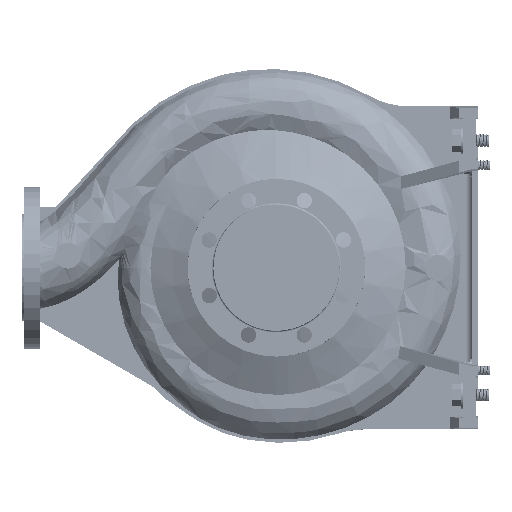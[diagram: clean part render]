
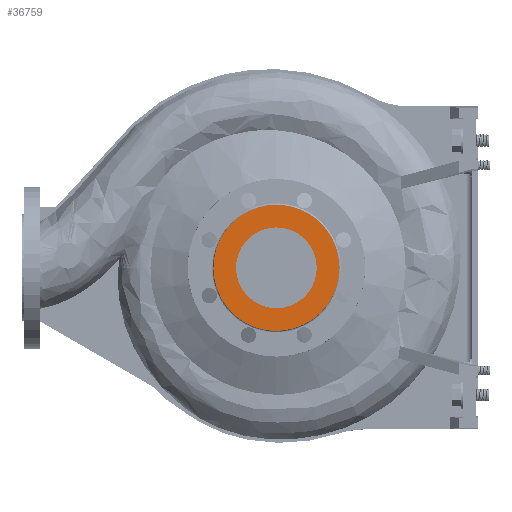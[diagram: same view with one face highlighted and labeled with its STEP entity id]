
A CAD part, left-side view. The second image highlights one B-rep face of the part: STEP entity #36759.
In plain terms, the highlighted planar face has unit normal (-1, 0, 0).
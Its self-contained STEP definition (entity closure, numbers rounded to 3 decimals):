
#1452 = CARTESIAN_POINT ( 'NONE',  ( -125., -78.936, -78.936 ) ) ;
#2963 = CARTESIAN_POINT ( 'NONE',  ( -125., -50., 0. ) ) ;
#3336 = AXIS2_PLACEMENT_3D ( 'NONE', #1452, #97648, #150085 ) ;
#9535 =( BOUNDED_CURVE ( )  B_SPLINE_CURVE ( 3, ( #228836, #153355, #208191, #135073 ),
 .UNSPECIFIED., .F., .F. ) 
 B_SPLINE_CURVE_WITH_KNOTS ( ( 4, 4 ),
 ( 0., 0.245 ),
 .UNSPECIFIED. ) 
 CURVE ( )  GEOMETRIC_REPRESENTATION_ITEM ( )  RATIONAL_B_SPLINE_CURVE ( ( 0.957, 0.319, 0.319, 0.957 ) ) 
 REPRESENTATION_ITEM ( '' )  );
#10399 = EDGE_LOOP ( 'NONE', ( #220333, #98650 ) ) ;
#22850 = CARTESIAN_POINT ( 'NONE',  ( -125., 0., 0. ) ) ;
#26476 = CARTESIAN_POINT ( 'NONE',  ( -125., 0., 0. ) ) ;
#35326 = EDGE_LOOP ( 'NONE', ( #220045, #178744 ) ) ;
#36759 = ADVANCED_FACE ( 'NONE', ( #185445, #224397 ), #95274, .T. ) ;
#42776 = CARTESIAN_POINT ( 'NONE',  ( -125., 50., 0. ) ) ;
#47457 = VERTEX_POINT ( 'NONE', #2963 ) ;
#55135 = CARTESIAN_POINT ( 'NONE',  ( -125., 0., -78. ) ) ;
#57773 = VERTEX_POINT ( 'NONE', #42776 ) ;
#78789 = VERTEX_POINT ( 'NONE', #136893 ) ;
#80110 = DIRECTION ( 'NONE',  ( 0., -1., 0. ) ) ;
#84179 = EDGE_CURVE ( 'NONE', #146727, #78789, #9535, .T. ) ;
#94116 = CARTESIAN_POINT ( 'NONE',  ( -125., 0., 78. ) ) ;
#95274 = PLANE ( 'NONE',  #3336 ) ;
#97648 = DIRECTION ( 'NONE',  ( -1., 0., 0. ) ) ;
#98650 = ORIENTED_EDGE ( 'NONE', *, *, #232175, .T. ) ;
#105902 = AXIS2_PLACEMENT_3D ( 'NONE', #22850, #115495, #80110 ) ;
#109235 = AXIS2_PLACEMENT_3D ( 'NONE', #26476, #119116, #194611 ) ;
#115495 = DIRECTION ( 'NONE',  ( 1., 0., 0. ) ) ;
#119116 = DIRECTION ( 'NONE',  ( 1., 0., 0. ) ) ;
#135073 = CARTESIAN_POINT ( 'NONE',  ( -125., 0., -78. ) ) ;
#136893 = CARTESIAN_POINT ( 'NONE',  ( -125., 0., -78. ) ) ;
#144839 = CIRCLE ( 'NONE', #105902, 50. ) ;
#146727 = VERTEX_POINT ( 'NONE', #150669 ) ;
#150085 = DIRECTION ( 'NONE',  ( 0., 0., 1. ) ) ;
#150123 = EDGE_CURVE ( 'NONE', #47457, #57773, #144839, .T. ) ;
#150669 = CARTESIAN_POINT ( 'NONE',  ( -125., 0., 78. ) ) ;
#153355 = CARTESIAN_POINT ( 'NONE',  ( -125., 156., 78. ) ) ;
#163814 = EDGE_CURVE ( 'NONE', #78789, #146727, #222938, .T. ) ;
#166034 = CARTESIAN_POINT ( 'NONE',  ( -125., -156., -78. ) ) ;
#178744 = ORIENTED_EDGE ( 'NONE', *, *, #163814, .T. ) ;
#185445 = FACE_BOUND ( 'NONE', #10399, .T. ) ;
#194611 = DIRECTION ( 'NONE',  ( 0., -1., 0. ) ) ;
#208191 = CARTESIAN_POINT ( 'NONE',  ( -125., 156., -78. ) ) ;
#214217 = CIRCLE ( 'NONE', #109235, 50. ) ;
#220045 = ORIENTED_EDGE ( 'NONE', *, *, #84179, .T. ) ;
#220333 = ORIENTED_EDGE ( 'NONE', *, *, #150123, .T. ) ;
#222938 =( BOUNDED_CURVE ( )  B_SPLINE_CURVE ( 3, ( #55135, #166034, #224434, #94116 ),
 .UNSPECIFIED., .F., .T. ) 
 B_SPLINE_CURVE_WITH_KNOTS ( ( 4, 4 ),
 ( 0., 0.245 ),
 .UNSPECIFIED. ) 
 CURVE ( )  GEOMETRIC_REPRESENTATION_ITEM ( )  RATIONAL_B_SPLINE_CURVE ( ( 0.957, 0.319, 0.319, 0.957 ) ) 
 REPRESENTATION_ITEM ( '' )  );
#224397 = FACE_OUTER_BOUND ( 'NONE', #35326, .T. ) ;
#224434 = CARTESIAN_POINT ( 'NONE',  ( -125., -156., 78. ) ) ;
#228836 = CARTESIAN_POINT ( 'NONE',  ( -125., 0., 78. ) ) ;
#232175 = EDGE_CURVE ( 'NONE', #57773, #47457, #214217, .T. ) ;
